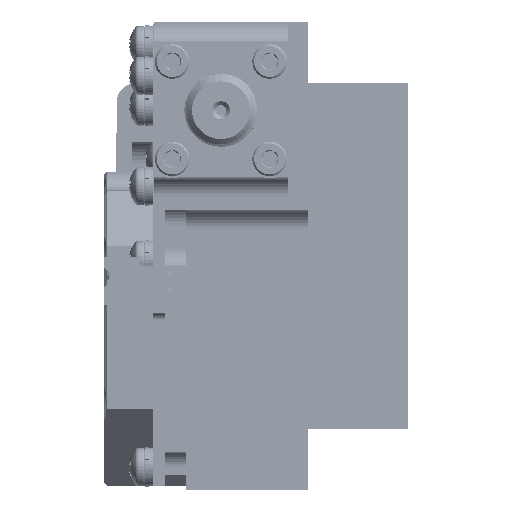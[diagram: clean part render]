
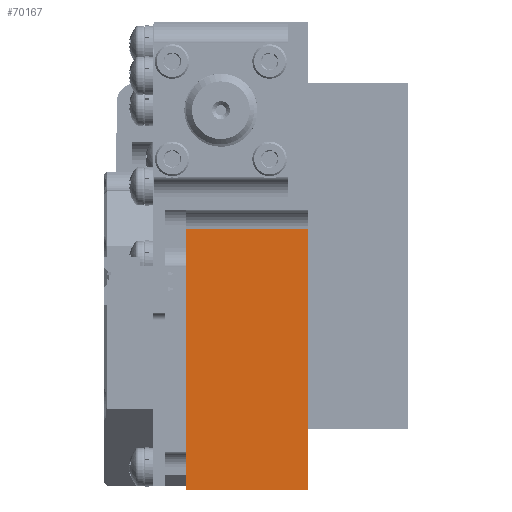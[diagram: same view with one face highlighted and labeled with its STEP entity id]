
A CAD part, left-side view. The second image highlights one B-rep face of the part: STEP entity #70167.
In plain terms, the highlighted planar face has unit normal (-1, 0, 0).
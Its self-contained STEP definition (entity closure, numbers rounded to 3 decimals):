
#12837 = VECTOR ( 'NONE', #48511, 1000. ) ;
#14829 = EDGE_CURVE ( 'NONE', #76561, #64680, #64382, .T. ) ;
#15304 = CARTESIAN_POINT ( 'NONE',  ( -36.5, 16., 0. ) ) ;
#17369 = CARTESIAN_POINT ( 'NONE',  ( -36.5, 0., 3.5 ) ) ;
#19924 = ORIENTED_EDGE ( 'NONE', *, *, #55799, .T. ) ;
#20643 = VERTEX_POINT ( 'NONE', #25780 ) ;
#21074 = CARTESIAN_POINT ( 'NONE',  ( -36.5, -13.5, 6. ) ) ;
#25780 = CARTESIAN_POINT ( 'NONE',  ( -36.5, 0., -30.5 ) ) ;
#26914 = EDGE_CURVE ( 'NONE', #20643, #55662, #49047, .T. ) ;
#29187 = DIRECTION ( 'NONE',  ( 0., 0., -1. ) ) ;
#30141 = VECTOR ( 'NONE', #29187, 1000. ) ;
#36252 = CARTESIAN_POINT ( 'NONE',  ( -36.5, 16., -30.5 ) ) ;
#40497 = DIRECTION ( 'NONE',  ( 0., 1., 0. ) ) ;
#41370 = LINE ( 'NONE', #76712, #12837 ) ;
#42461 = DIRECTION ( 'NONE',  ( 0., 1., 0. ) ) ;
#45947 = VECTOR ( 'NONE', #40497, 1000. ) ;
#48511 = DIRECTION ( 'NONE',  ( 0., 0., 1. ) ) ;
#49047 = LINE ( 'NONE', #85346, #45947 ) ;
#50166 = CARTESIAN_POINT ( 'NONE',  ( -36.5, 16., 3.5 ) ) ;
#50247 = DIRECTION ( 'NONE',  ( 0., 0., -1. ) ) ;
#50723 = LINE ( 'NONE', #15304, #30141 ) ;
#53881 = ORIENTED_EDGE ( 'NONE', *, *, #26914, .F. ) ;
#55662 = VERTEX_POINT ( 'NONE', #36252 ) ;
#55799 = EDGE_CURVE ( 'NONE', #20643, #76561, #41370, .T. ) ;
#61642 = EDGE_CURVE ( 'NONE', #64680, #55662, #50723, .T. ) ;
#61771 = ORIENTED_EDGE ( 'NONE', *, *, #14829, .T. ) ;
#64082 = FACE_OUTER_BOUND ( 'NONE', #85042, .T. ) ;
#64382 = LINE ( 'NONE', #83700, #65891 ) ;
#64680 = VERTEX_POINT ( 'NONE', #50166 ) ;
#65891 = VECTOR ( 'NONE', #42461, 1000. ) ;
#70167 = ADVANCED_FACE ( 'NONE', ( #64082 ), #86551, .F. ) ;
#73133 = DIRECTION ( 'NONE',  ( 1., 0., 0. ) ) ;
#75167 = AXIS2_PLACEMENT_3D ( 'NONE', #21074, #73133, #50247 ) ;
#76561 = VERTEX_POINT ( 'NONE', #17369 ) ;
#76712 = CARTESIAN_POINT ( 'NONE',  ( -36.5, 0., 0. ) ) ;
#83700 = CARTESIAN_POINT ( 'NONE',  ( -36.5, 16., 3.5 ) ) ;
#85042 = EDGE_LOOP ( 'NONE', ( #19924, #61771, #91020, #53881 ) ) ;
#85346 = CARTESIAN_POINT ( 'NONE',  ( -36.5, -13.5, -30.5 ) ) ;
#86551 = PLANE ( 'NONE',  #75167 ) ;
#91020 = ORIENTED_EDGE ( 'NONE', *, *, #61642, .T. ) ;
